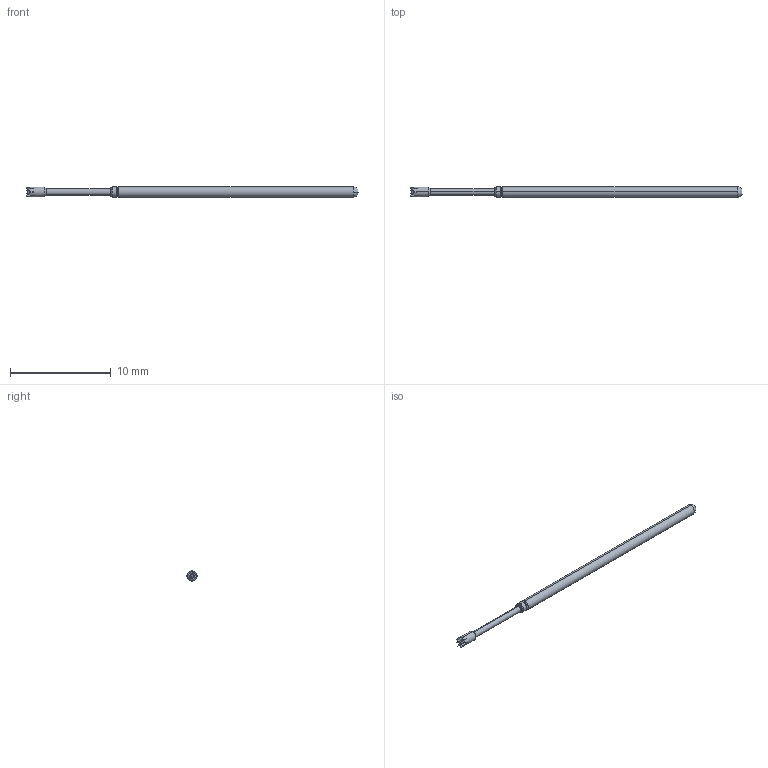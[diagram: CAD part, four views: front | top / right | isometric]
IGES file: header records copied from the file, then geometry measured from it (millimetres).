
Start section: SolidWorks IGES file using analytic representation for surfaces
Global section: file name: Z:\probe solid model mockups\Solidworks models\IGES Files\LFRE-1 IGES files\LFRE-1Z1.IGS; native system: SolidWorks 2016; preprocessor: SolidWorks 2016; author: mlee; date: 180928.083748; units: inch
Bounding box: 33.02 x 1.02 x 1.02 mm (x, y, z)
Surface area: 99.4 mm2 (no closed solid volume)
Topology: 0 solids, 0 shells, 38 faces, 210 edges, 210 vertices
Faces by surface type: bspline 22, revolution 16
